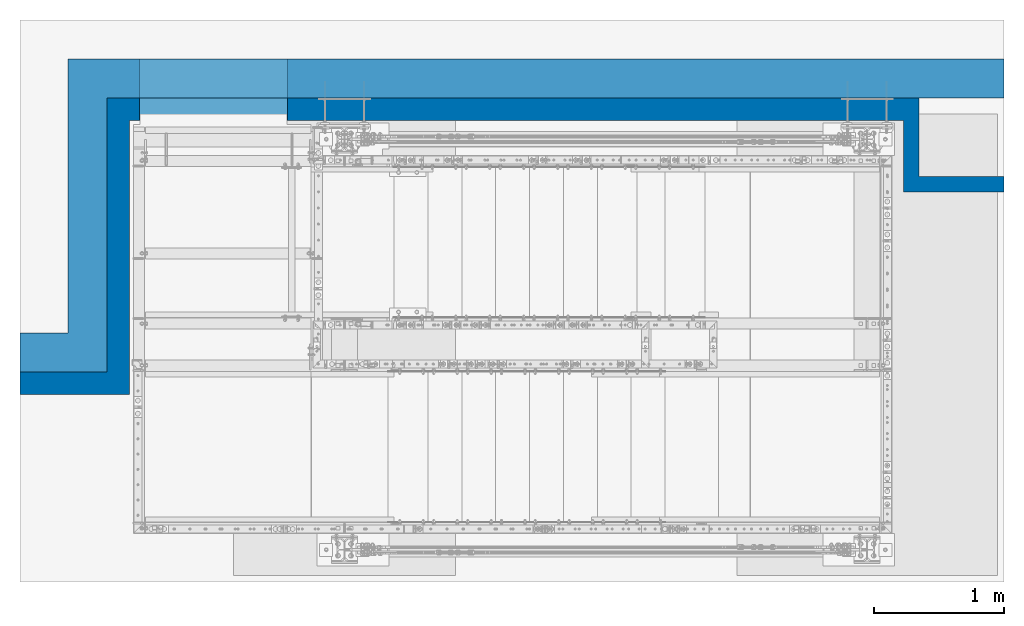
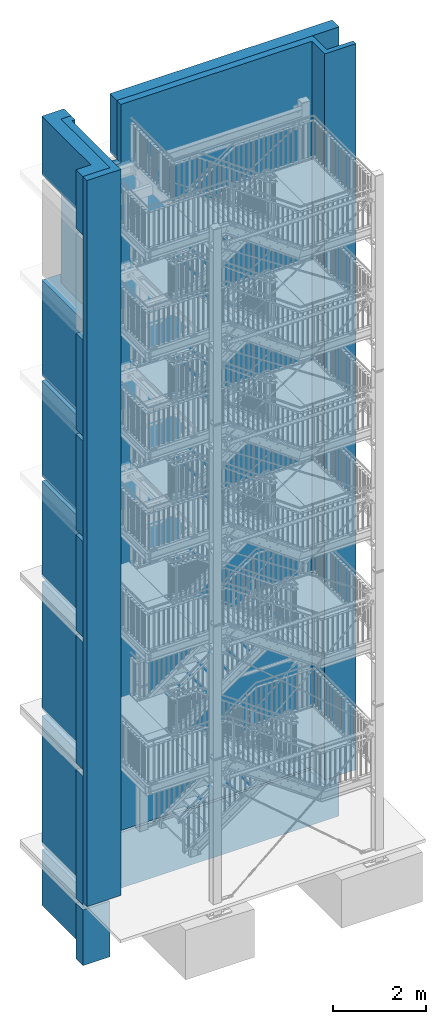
# One storey, part 236 of 831: 8 walls, 31 openings.
"""IFC2X3 building model written with IfcOpenShell, lengths in millimetres."""

from ifc_helpers import new_model, entity, si_unit, converted_unit, frame, origin, origin_with_axes, place, context, project, spatial, polyline, outline, extrude, material, layer, layer_set, element, save


model = new_model("IFC2X3")

# Units and contexts
model_context = context("Model", 3, precision=1e-09, world=origin_with_axes())
ifc_project = project(units=[si_unit("LENGTHUNIT", "METRE", prefix="MILLI"), si_unit("AREAUNIT", "SQUARE_METRE"), si_unit("VOLUMEUNIT", "CUBIC_METRE"), converted_unit("PLANEANGLEUNIT", "DEGREE", entity("IfcPlaneAngleMeasure", 0.01745329), si_unit("PLANEANGLEUNIT", "RADIAN"), dimensions=[0, 0, 0, 0, 0, 0, 0])], contexts=[model_context])

# Site, building, storey
site_placement = place(None, origin_with_axes())
site = spatial("IfcSite", under=ifc_project, at=site_placement, Name="Site", CompositionType="ELEMENT")
building_placement = place(site_placement, origin_with_axes())
building = spatial("IfcBuilding", under=site, at=building_placement, Name="Struktur 1", CompositionType="ELEMENT")
storey_placement = place(building_placement, origin_with_axes())
storey = spatial("IfcBuildingStorey", under=building, at=storey_placement, Name="Default Storey", CompositionType="ELEMENT", Elevation=0.0)

# Wall, openings
ifc_material = material(Name="C25/30")
ifc_layer_1 = layer(ifc_material, 2400.0)
ifc_layer_set_1 = layer_set([ifc_layer_1], Name="C25/30")
wall_1_placement = place(None, frame((6142.06017303, 8131.736971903, -550.0), z_axis=(0.0, -1.0, 0.0), x_axis=(1.0, 0.0, 0.0)))
wall_1 = element("IfcWall", 1, at=wall_1_placement, inside=storey, material=ifc_layer_set_1, Name="-", ObjectType="-", context=model_context, shape_type="SweptSolid", body=[
    extrude(outline(polyline([(-3774.653229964, -730.0), (3774.653229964, -730.0), (3774.653229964, 730.0), (-3774.653229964, 730.0), (-3774.653229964, -730.0)])), origin_with_axes(), (0.0, 0.0, 1.0), 2400.0),
])
opening_1_placement = place(wall_1_placement, frame((0.0, -730.1, 1200.0), z_axis=(0.0, 1.0, 0.0), x_axis=(1.0, 0.0, 0.0)))
element("IfcOpeningElement", 2, at=opening_1_placement, cuts=wall_1, ObjectType="Opening", context=model_context, shape_type="SweptSolid", body=[
    extrude(outline(polyline([(-4066.743359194, -900.001), (-3407.345770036, -900.001), (-3407.345770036, 1540.537918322), (-4066.743359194, 1540.537918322), (-4066.743359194, -900.001)])), origin(), (0.0, 0.0, 1.0), 1460.2),
])
opening_2_placement = place(wall_1_placement, frame((0.0, -730.1, 1200.0), z_axis=(0.0, 1.0, 0.0), x_axis=(1.0, 0.0, 0.0)))
element("IfcOpeningElement", 3, at=opening_2_placement, cuts=wall_1, ObjectType="Opening", context=model_context, shape_type="SweptSolid", body=[
    extrude(outline(polyline([(-3107.347770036, -1639.47409106), (4518.929305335, -1639.47409106), (4518.929305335, 900.001), (-3107.347770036, 900.001), (-3107.347770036, -1639.47409106)])), origin(), (0.0, 0.0, 1.0), 1460.2),
])

ifc_layer_2 = layer(ifc_material, 2272.0)
ifc_layer_set_2 = layer_set([ifc_layer_2], Name="C25/30")
wall_2_placement = place(None, frame((6142.06017303, 7831.735971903, 9870.0), z_axis=(0.0, -1.0, 0.0), x_axis=(1.0, 0.0, 0.0)))
wall_2 = element("IfcWall", 4, at=wall_2_placement, inside=storey, material=ifc_layer_set_2, Name="-", ObjectType="-", context=model_context, shape_type="SweptSolid", body=[
    extrude(outline(polyline([(-3774.653229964, -9500.0), (3774.653229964, -9500.0), (3774.653229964, 9500.0), (-3774.653229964, 9500.0), (-3774.653229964, -9500.0)])), origin_with_axes(), (0.0, 0.0, 1.0), 2272.0),
])
opening_3_placement = place(wall_2_placement, frame((0.0, -9500.1, 1136.0), z_axis=(0.0, 1.0, 0.0), x_axis=(1.0, 0.0, 0.0)))
element("IfcOpeningElement", 5, at=opening_3_placement, cuts=wall_2, ObjectType="Opening", context=model_context, shape_type="SweptSolid", body=[
    extrude(outline(polyline([(-4123.085438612, -964.0), (-3107.346770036, -964.0), (-3107.346770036, 1381.510287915), (-4123.085438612, 1381.510287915), (-4123.085438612, -964.0)])), origin(), (0.0, 0.0, 1.0), 19000.2),
])
opening_4_placement = place(wall_2_placement, frame((0.0, -9500.1, 1136.0), z_axis=(0.0, 1.0, 0.0), x_axis=(1.0, 0.0, 0.0)))
element("IfcOpeningElement", 6, at=opening_4_placement, cuts=wall_2, ObjectType="Opening", context=model_context, shape_type="SweptSolid", body=[
    extrude(outline(polyline([(-2935.347770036, -1467.876166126), (3002.654229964, -1467.876166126), (3002.654229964, 964.005), (-2935.347770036, 964.005), (-2935.347770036, -1467.876166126)])), origin(), (0.0, 0.0, 1.0), 19000.2),
])
opening_5_placement = place(wall_2_placement, frame((0.0, 0.0, -0.1), z_axis=(0.0, 0.0, 1.0), x_axis=(1.0, 0.0, 0.0)))
element("IfcOpeningElement", 7, at=opening_5_placement, cuts=wall_2, ObjectType="Opening", context=model_context, shape_type="SweptSolid", body=[
    extrude(outline(polyline([(-2857.347770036, -9570.001), (-1722.346770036, -9570.001), (-1722.346770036, -7289.999), (-2857.347770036, -7289.999), (-2857.347770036, -9570.001)])), origin(), (0.0, 0.0, 1.0), 2272.2),
])
opening_6_placement = place(wall_2_placement, frame((0.0, 0.0, -0.1), z_axis=(0.0, 0.0, 1.0), x_axis=(1.0, 0.0, 0.0)))
element("IfcOpeningElement", 8, at=opening_6_placement, cuts=wall_2, ObjectType="Opening", context=model_context, shape_type="SweptSolid", body=[
    extrude(outline(polyline([(-2857.347770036, -6023.001), (-1722.346770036, -6023.001), (-1722.346770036, -3762.998), (-2857.347770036, -3762.998), (-2857.347770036, -6023.001)])), origin(), (0.0, 0.0, 1.0), 2272.2),
])
opening_7_placement = place(wall_2_placement, frame((0.0, 0.0, -0.1), z_axis=(0.0, 0.0, 1.0), x_axis=(1.0, 0.0, 0.0)))
element("IfcOpeningElement", 9, at=opening_7_placement, cuts=wall_2, ObjectType="Opening", context=model_context, shape_type="SweptSolid", body=[
    extrude(outline(polyline([(-2857.347770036, -2550.001), (-1722.346770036, -2550.001), (-1722.346770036, -289.998), (-2857.347770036, -289.998), (-2857.347770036, -2550.001)])), origin(), (0.0, 0.0, 1.0), 2272.2),
])
opening_8_placement = place(wall_2_placement, frame((0.0, 0.0, -0.1), z_axis=(0.0, 0.0, 1.0), x_axis=(1.0, 0.0, 0.0)))
element("IfcOpeningElement", 10, at=opening_8_placement, cuts=wall_2, ObjectType="Opening", context=model_context, shape_type="SweptSolid", body=[
    extrude(outline(polyline([(-2857.347770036, 81.999), (-1722.346770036, 81.999), (-1722.346770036, 2342.002), (-2857.347770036, 2342.002), (-2857.347770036, 81.999)])), origin(), (0.0, 0.0, 1.0), 2272.2),
])
opening_9_placement = place(wall_2_placement, frame((0.0, 0.0, -0.1), z_axis=(0.0, 0.0, 1.0), x_axis=(1.0, 0.0, 0.0)))
element("IfcOpeningElement", 11, at=opening_9_placement, cuts=wall_2, ObjectType="Opening", context=model_context, shape_type="SweptSolid", body=[
    extrude(outline(polyline([(-2857.347770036, 2708.999), (-1722.346770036, 2708.999), (-1722.346770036, 4969.002), (-2857.347770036, 4969.002), (-2857.347770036, 2708.999)])), origin(), (0.0, 0.0, 1.0), 2272.2),
])
opening_10_placement = place(wall_2_placement, frame((0.0, 0.0, -0.1), z_axis=(0.0, 0.0, 1.0), x_axis=(1.0, 0.0, 0.0)))
element("IfcOpeningElement", 12, at=opening_10_placement, cuts=wall_2, ObjectType="Opening", context=model_context, shape_type="SweptSolid", body=[
    extrude(outline(polyline([(-2857.347770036, 5343.999), (-1722.346770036, 5343.999), (-1722.346770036, 7604.002), (-2857.347770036, 7604.002), (-2857.347770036, 5343.999)])), origin(), (0.0, 0.0, 1.0), 2272.2),
])
opening_11_placement = place(wall_2_placement, frame((0.0, 0.0, -0.1), z_axis=(0.0, 0.0, 1.0), x_axis=(1.0, 0.0, 0.0)))
element("IfcOpeningElement", 13, at=opening_11_placement, cuts=wall_2, ObjectType="Opening", context=model_context, shape_type="SweptSolid", body=[
    extrude(outline(polyline([(-2857.347770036, 7963.999), (-1722.346770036, 7963.999), (-1722.346770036, 10190.001), (-2857.347770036, 10190.001), (-2857.347770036, 7963.999)])), origin(), (0.0, 0.0, 1.0), 2272.2),
])
opening_12_placement = place(wall_2_placement, frame((0.0, -9500.1, 1136.0), z_axis=(0.0, 1.0, 0.0), x_axis=(1.0, 0.0, 0.0)))
element("IfcOpeningElement", 14, at=opening_12_placement, cuts=wall_2, ObjectType="Opening", context=model_context, shape_type="SweptSolid", body=[
    extrude(outline(polyline([(2960.822495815, -1467.876166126), (4107.704030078, -1467.876166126), (4107.704030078, 416.003), (2960.822495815, 416.003), (2960.822495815, -1467.876166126)])), origin(), (0.0, 0.0, 1.0), 19000.2),
])
opening_13_placement = place(wall_2_placement, frame((0.0, -9500.1, 1136.0), z_axis=(0.0, 1.0, 0.0), x_axis=(1.0, 0.0, 0.0)))
element("IfcOpeningElement", 15, at=opening_13_placement, cuts=wall_2, ObjectType="Opening", context=model_context, shape_type="SweptSolid", body=[
    extrude(outline(polyline([(3122.652229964, 536.0), (3912.658272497, 536.0), (3912.658272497, 1136.003), (3122.652229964, 1136.003), (3122.652229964, 536.0)])), origin(), (0.0, 0.0, 1.0), 19000.2),
])

wall_3_placement = place(None, frame((6142.06017303, 8131.736971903, 1988.5), z_axis=(0.0, -1.0, 0.0), x_axis=(1.0, 0.0, 0.0)))
wall_3 = element("IfcWall", 16, at=wall_3_placement, inside=storey, material=ifc_layer_set_1, Name="-", ObjectType="-", context=model_context, shape_type="SweptSolid", body=[
    extrude(outline(polyline([(-3774.655, -1688.5), (3774.655, -1688.5), (3774.655, 1688.5), (-3774.655, 1688.5), (-3774.655, -1688.5)])), origin_with_axes(), (0.0, 0.0, 1.0), 2400.0),
])
opening_14_placement = place(wall_3_placement, frame((0.0, -1688.6, 1200.0), z_axis=(0.0, 1.0, 0.0), x_axis=(1.0, 0.0, 0.0)))
element("IfcOpeningElement", 17, at=opening_14_placement, cuts=wall_3, ObjectType="Opening", context=model_context, shape_type="SweptSolid", body=[
    extrude(outline(polyline([(-4066.743359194, -900.001), (-3407.345770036, -900.001), (-3407.345770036, 1540.537918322), (-4066.743359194, 1540.537918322), (-4066.743359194, -900.001)])), origin(), (0.0, 0.0, 1.0), 3377.2),
])
opening_15_placement = place(wall_3_placement, frame((0.0, -1688.6, 1200.0), z_axis=(0.0, 1.0, 0.0), x_axis=(1.0, 0.0, 0.0)))
element("IfcOpeningElement", 18, at=opening_15_placement, cuts=wall_3, ObjectType="Opening", context=model_context, shape_type="SweptSolid", body=[
    extrude(outline(polyline([(-3107.347770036, -1639.47409106), (4518.929305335, -1639.47409106), (4518.929305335, 900.001), (-3107.347770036, 900.001), (-3107.347770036, -1639.47409106)])), origin(), (0.0, 0.0, 1.0), 3377.2),
])
opening_16_placement = place(wall_3_placement, frame((0.0, 0.0, -0.1), z_axis=(0.0, 0.0, 1.0), x_axis=(1.0, 0.0, 0.0)))
element("IfcOpeningElement", 19, at=opening_16_placement, cuts=wall_3, ObjectType="Opening", context=model_context, shape_type="SweptSolid", body=[
    extrude(outline(polyline([(-2857.348770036, -1737.819976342), (-1722.346770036, -1737.819976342), (-1722.346770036, 591.501), (-2857.348770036, 591.501), (-2857.348770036, -1737.819976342)])), origin(), (0.0, 0.0, 1.0), 2400.2),
])

wall_4_placement = place(None, frame((6142.06017303, 8131.736971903, 5518.5), z_axis=(0.0, -1.0, 0.0), x_axis=(1.0, 0.0, 0.0)))
wall_4 = element("IfcWall", 20, at=wall_4_placement, inside=storey, material=ifc_layer_set_1, Name="-", ObjectType="-", context=model_context, shape_type="SweptSolid", body=[
    extrude(outline(polyline([(-3774.655, -1671.5), (3774.655, -1671.5), (3774.655, 1671.5), (-3774.655, 1671.5), (-3774.655, -1671.5)])), origin_with_axes(), (0.0, 0.0, 1.0), 2400.0),
])
opening_17_placement = place(wall_4_placement, frame((0.0, -1671.6, 1200.0), z_axis=(0.0, 1.0, 0.0), x_axis=(1.0, 0.0, 0.0)))
element("IfcOpeningElement", 21, at=opening_17_placement, cuts=wall_4, ObjectType="Opening", context=model_context, shape_type="SweptSolid", body=[
    extrude(outline(polyline([(-4066.743359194, -900.001), (-3407.345770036, -900.001), (-3407.345770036, 1540.537918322), (-4066.743359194, 1540.537918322), (-4066.743359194, -900.001)])), origin(), (0.0, 0.0, 1.0), 3343.2),
])
opening_18_placement = place(wall_4_placement, frame((0.0, -1671.6, 1200.0), z_axis=(0.0, 1.0, 0.0), x_axis=(1.0, 0.0, 0.0)))
element("IfcOpeningElement", 22, at=opening_18_placement, cuts=wall_4, ObjectType="Opening", context=model_context, shape_type="SweptSolid", body=[
    extrude(outline(polyline([(-3107.347770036, -1639.47409106), (4518.929305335, -1639.47409106), (4518.929305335, 900.001), (-3107.347770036, 900.001), (-3107.347770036, -1639.47409106)])), origin(), (0.0, 0.0, 1.0), 3343.2),
])
opening_19_placement = place(wall_4_placement, frame((0.0, 0.0, -0.1), z_axis=(0.0, 0.0, 1.0), x_axis=(1.0, 0.0, 0.0)))
element("IfcOpeningElement", 23, at=opening_19_placement, cuts=wall_4, ObjectType="Opening", context=model_context, shape_type="SweptSolid", body=[
    extrude(outline(polyline([(-2857.348770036, -1685.001), (-1722.346770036, -1685.001), (-1722.346770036, 588.501), (-2857.348770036, 588.501), (-2857.348770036, -1685.001)])), origin(), (0.0, 0.0, 1.0), 2400.2),
])

wall_5_placement = place(None, frame((6142.06017303, 8131.736971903, 8571.0), z_axis=(0.0, -1.0, 0.0), x_axis=(1.0, 0.0, 0.0)))
wall_5 = element("IfcWall", 24, at=wall_5_placement, inside=storey, material=ifc_layer_set_1, Name="-", ObjectType="-", context=model_context, shape_type="SweptSolid", body=[
    extrude(outline(polyline([(-3774.655, -1251.0), (3774.655, -1251.0), (3774.655, 1251.0), (-3774.655, 1251.0), (-3774.655, -1251.0)])), origin_with_axes(), (0.0, 0.0, 1.0), 2400.0),
])
opening_20_placement = place(wall_5_placement, frame((0.0, -1251.1, 1200.0), z_axis=(0.0, 1.0, 0.0), x_axis=(1.0, 0.0, 0.0)))
element("IfcOpeningElement", 25, at=opening_20_placement, cuts=wall_5, ObjectType="Opening", context=model_context, shape_type="SweptSolid", body=[
    extrude(outline(polyline([(-4066.743359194, -900.001), (-3407.345770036, -900.001), (-3407.345770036, 1540.537918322), (-4066.743359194, 1540.537918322), (-4066.743359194, -900.001)])), origin(), (0.0, 0.0, 1.0), 2502.2),
])
opening_21_placement = place(wall_5_placement, frame((0.0, -1251.1, 1200.0), z_axis=(0.0, 1.0, 0.0), x_axis=(1.0, 0.0, 0.0)))
element("IfcOpeningElement", 26, at=opening_21_placement, cuts=wall_5, ObjectType="Opening", context=model_context, shape_type="SweptSolid", body=[
    extrude(outline(polyline([(-3107.347770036, -1639.47409106), (4518.929305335, -1639.47409106), (4518.929305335, 900.001), (-3107.347770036, 900.001), (-3107.347770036, -1639.47409106)])), origin(), (0.0, 0.0, 1.0), 2502.2),
])
opening_22_placement = place(wall_5_placement, frame((0.0, 0.0, -0.1), z_axis=(0.0, 0.0, 1.0), x_axis=(1.0, 0.0, 0.0)))
element("IfcOpeningElement", 27, at=opening_22_placement, cuts=wall_5, ObjectType="Opening", context=model_context, shape_type="SweptSolid", body=[
    extrude(outline(polyline([(-2857.348770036, -1282.291642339), (-1722.346770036, -1282.291642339), (-1722.346770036, 1009.001), (-2857.348770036, 1009.001), (-2857.348770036, -1282.291642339)])), origin(), (0.0, 0.0, 1.0), 2400.2),
])

wall_6_placement = place(None, frame((6142.06017303, 8131.736971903, 11200.5), z_axis=(0.0, -1.0, 0.0), x_axis=(1.0, 0.0, 0.0)))
wall_6 = element("IfcWall", 28, at=wall_6_placement, inside=storey, material=ifc_layer_set_1, Name="-", ObjectType="-", context=model_context, shape_type="SweptSolid", body=[
    extrude(outline(polyline([(-3774.655, -1248.5), (3774.655, -1248.5), (3774.655, 1248.5), (-3774.655, 1248.5), (-3774.655, -1248.5)])), origin_with_axes(), (0.0, 0.0, 1.0), 2400.0),
])
opening_23_placement = place(wall_6_placement, frame((0.0, -1248.6, 1200.0), z_axis=(0.0, 1.0, 0.0), x_axis=(1.0, 0.0, 0.0)))
element("IfcOpeningElement", 29, at=opening_23_placement, cuts=wall_6, ObjectType="Opening", context=model_context, shape_type="SweptSolid", body=[
    extrude(outline(polyline([(-4066.743359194, -900.001), (-3407.345770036, -900.001), (-3407.345770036, 1540.537918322), (-4066.743359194, 1540.537918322), (-4066.743359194, -900.001)])), origin(), (0.0, 0.0, 1.0), 2497.2),
])
opening_24_placement = place(wall_6_placement, frame((0.0, -1248.6, 1200.0), z_axis=(0.0, 1.0, 0.0), x_axis=(1.0, 0.0, 0.0)))
element("IfcOpeningElement", 30, at=opening_24_placement, cuts=wall_6, ObjectType="Opening", context=model_context, shape_type="SweptSolid", body=[
    extrude(outline(polyline([(-3107.347770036, -1639.47409106), (4518.929305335, -1639.47409106), (4518.929305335, 900.001), (-3107.347770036, 900.001), (-3107.347770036, -1639.47409106)])), origin(), (0.0, 0.0, 1.0), 2497.2),
])
opening_25_placement = place(wall_6_placement, frame((0.0, 0.0, -0.1), z_axis=(0.0, 0.0, 1.0), x_axis=(1.0, 0.0, 0.0)))
element("IfcOpeningElement", 31, at=opening_25_placement, cuts=wall_6, ObjectType="Opening", context=model_context, shape_type="SweptSolid", body=[
    extrude(outline(polyline([(-2857.348770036, -1268.585579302), (-1722.346770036, -1268.585579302), (-1722.346770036, 1011.501), (-2857.348770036, 1011.501), (-2857.348770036, -1268.585579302)])), origin(), (0.0, 0.0, 1.0), 2400.2),
])

wall_7_placement = place(None, frame((6142.06017303, 8131.736971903, 13831.5), z_axis=(0.0, -1.0, 0.0), x_axis=(1.0, 0.0, 0.0)))
wall_7 = element("IfcWall", 32, at=wall_7_placement, inside=storey, material=ifc_layer_set_1, Name="-", ObjectType="-", context=model_context, shape_type="SweptSolid", body=[
    extrude(outline(polyline([(-3774.655, -1252.5), (3774.655, -1252.5), (3774.655, 1252.5), (-3774.655, 1252.5), (-3774.655, -1252.5)])), origin_with_axes(), (0.0, 0.0, 1.0), 2400.0),
])
opening_26_placement = place(wall_7_placement, frame((0.0, -1252.6, 1200.0), z_axis=(0.0, 1.0, 0.0), x_axis=(1.0, 0.0, 0.0)))
element("IfcOpeningElement", 33, at=opening_26_placement, cuts=wall_7, ObjectType="Opening", context=model_context, shape_type="SweptSolid", body=[
    extrude(outline(polyline([(-4066.743359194, -900.001), (-3407.345770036, -900.001), (-3407.345770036, 1540.537918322), (-4066.743359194, 1540.537918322), (-4066.743359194, -900.001)])), origin(), (0.0, 0.0, 1.0), 2505.2),
])
opening_27_placement = place(wall_7_placement, frame((0.0, -1252.6, 1200.0), z_axis=(0.0, 1.0, 0.0), x_axis=(1.0, 0.0, 0.0)))
element("IfcOpeningElement", 34, at=opening_27_placement, cuts=wall_7, ObjectType="Opening", context=model_context, shape_type="SweptSolid", body=[
    extrude(outline(polyline([(-3107.347770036, -1639.47409106), (4518.929305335, -1639.47409106), (4518.929305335, 900.001), (-3107.347770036, 900.001), (-3107.347770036, -1639.47409106)])), origin(), (0.0, 0.0, 1.0), 2505.2),
])
opening_28_placement = place(wall_7_placement, frame((0.0, 0.0, -0.1), z_axis=(0.0, 0.0, 1.0), x_axis=(1.0, 0.0, 0.0)))
element("IfcOpeningElement", 35, at=opening_28_placement, cuts=wall_7, ObjectType="Opening", context=model_context, shape_type="SweptSolid", body=[
    extrude(outline(polyline([(-2857.348770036, -1292.200434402), (-1722.346770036, -1292.200434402), (-1722.346770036, 1007.501), (-2857.348770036, 1007.501), (-2857.348770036, -1292.200434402)])), origin(), (0.0, 0.0, 1.0), 2400.2),
])

wall_8_placement = place(None, frame((6142.06017303, 8131.736971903, 18602.0), z_axis=(0.0, -1.0, 0.0), x_axis=(1.0, 0.0, 0.0)))
wall_8 = element("IfcWall", 36, at=wall_8_placement, inside=storey, material=ifc_layer_set_1, Name="-", ObjectType="-", context=model_context, shape_type="SweptSolid", body=[
    extrude(outline(polyline([(-3774.655, -768.0), (3774.655, -768.0), (3774.655, 768.0), (-3774.655, 768.0), (-3774.655, -768.0)])), origin_with_axes(), (0.0, 0.0, 1.0), 2400.0),
])
opening_29_placement = place(wall_8_placement, frame((0.0, -768.1, 1200.0), z_axis=(0.0, 1.0, 0.0), x_axis=(1.0, 0.0, 0.0)))
element("IfcOpeningElement", 37, at=opening_29_placement, cuts=wall_8, ObjectType="Opening", context=model_context, shape_type="SweptSolid", body=[
    extrude(outline(polyline([(-4066.743359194, -900.001), (-3407.345770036, -900.001), (-3407.345770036, 1540.537918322), (-4066.743359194, 1540.537918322), (-4066.743359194, -900.001)])), origin(), (0.0, 0.0, 1.0), 1536.2),
])
opening_30_placement = place(wall_8_placement, frame((0.0, -768.1, 1200.0), z_axis=(0.0, 1.0, 0.0), x_axis=(1.0, 0.0, 0.0)))
element("IfcOpeningElement", 38, at=opening_30_placement, cuts=wall_8, ObjectType="Opening", context=model_context, shape_type="SweptSolid", body=[
    extrude(outline(polyline([(-3107.347770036, -1639.47409106), (4518.929305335, -1639.47409106), (4518.929305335, 900.001), (-3107.347770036, 900.001), (-3107.347770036, -1639.47409106)])), origin(), (0.0, 0.0, 1.0), 1536.2),
])
opening_31_placement = place(wall_8_placement, frame((0.0, 0.0, -0.1), z_axis=(0.0, 0.0, 1.0), x_axis=(1.0, 0.0, 0.0)))
element("IfcOpeningElement", 39, at=opening_31_placement, cuts=wall_8, ObjectType="Opening", context=model_context, shape_type="SweptSolid", body=[
    extrude(outline(polyline([(-2857.348770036, -785.001), (-1722.346770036, -785.001), (-1722.346770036, 1475.001), (-2857.348770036, 1475.001), (-2857.348770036, -785.001)])), origin(), (0.0, 0.0, 1.0), 2400.2),
])

save(model, "model.ifc")
